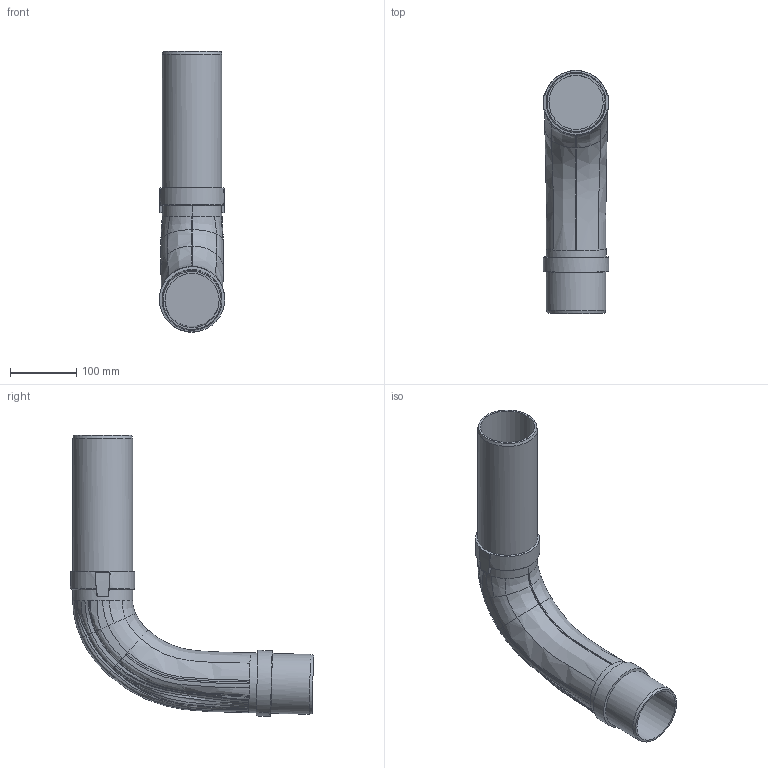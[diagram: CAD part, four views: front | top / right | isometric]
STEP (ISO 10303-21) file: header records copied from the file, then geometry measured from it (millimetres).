
FILE_DESCRIPTION(/* description */ (''),/* implementation_level */ '2;1');
FILE_NAME(/* name */ 'C:\Planerdaten\Export PLA\393.425.14.1\stp\393425.stp',/* time_stamp */ '2022-09-16T14:45:01+02:00',/* author */ ('JANAN'),/* organization */ (''),/* preprocessor_version */ 'ST-DEVELOPER v18.1',/* originating_system */ 'Autodesk Inventor 2021',/* authorisation */ '');
FILE_SCHEMA (('AUTOMOTIVE_DESIGN { 1 0 10303 214 3 1 1 }'));
Length unit declared in the file: millimetre
Products named in the file (1): tmpEC72.tmp
Bounding box: 98.56 x 366.03 x 423.15 mm (x, y, z)
Volume: 2562119.2 mm3; surface area: 272597.4 mm2
Topology: 1 solids, 1 shells, 146 faces, 420 edges, 279 vertices
Faces by surface type: bspline 115, plane 13, cone 9, cylinder 7, torus 2
Full cylindrical faces by diameter (mm): 81.6 x2, 89.1 x2, 90.2 x3
Entity records: 16949 total; most frequent: CARTESIAN_POINT 13458, ORIENTED_EDGE 846, DIRECTION 469, EDGE_CURVE 423, VERTEX_POINT 285, AXIS2_PLACEMENT_3D 207, B_SPLINE_CURVE_WITH_KNOTS 193, CIRCLE 165
